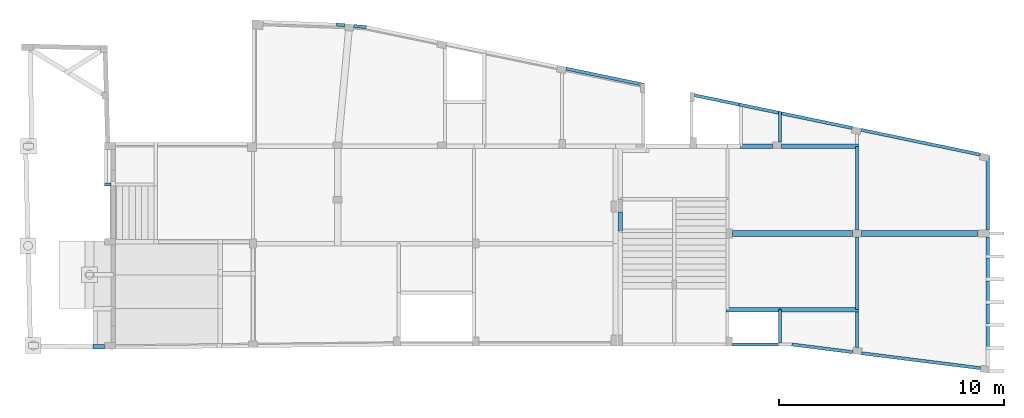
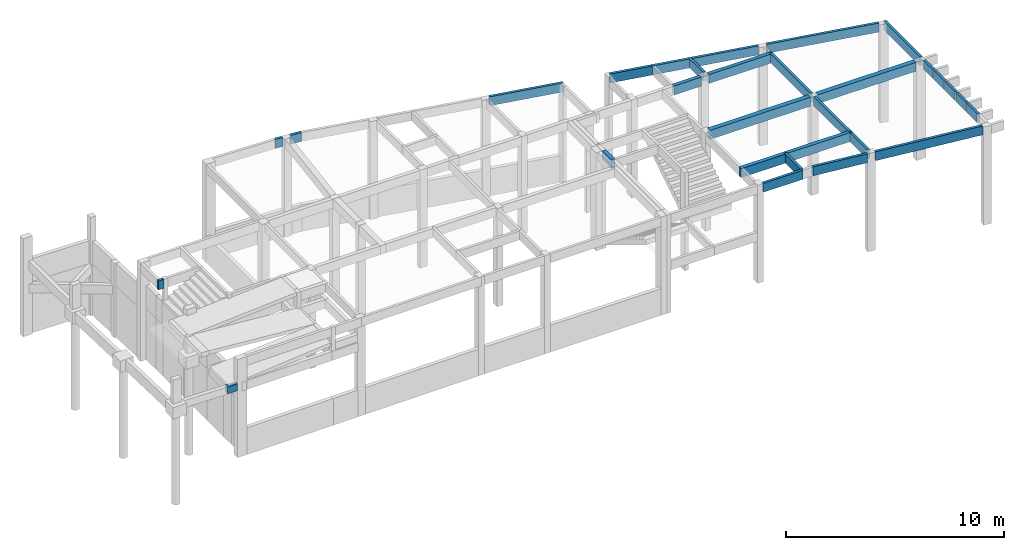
# One storey, part 3 of 8: 30 beams.
"""IFC4 building model written with IfcOpenShell, lengths in centimetres."""

from ifc_helpers import new_model, si_unit, derived_unit, frame, origin, origin_with_axes, origin_2d_with_axis, place, context, project, spatial, rectangle, extrude, clip, halfspace, material, element, save


model = new_model("IFC4")

# Units and contexts
model_context = context("Model", 3, precision=1e-05, world=origin_with_axes(), identifier="Body")
ifc_project = project(units=[si_unit("LENGTHUNIT", "METRE", prefix="CENTI"), si_unit("VOLUMEUNIT", "CUBIC_METRE"), si_unit("AREAUNIT", "SQUARE_METRE"), si_unit("POWERUNIT", "WATT"), si_unit("LUMINOUSFLUXUNIT", "LUMEN"), si_unit("ELECTRICCURRENTUNIT", "AMPERE"), si_unit("PRESSUREUNIT", "PASCAL", prefix="KILO"), si_unit("MASSUNIT", "GRAM", prefix="KILO"), si_unit("PLANEANGLEUNIT", "RADIAN"), derived_unit("VOLUMETRICFLOWRATEUNIT", [(si_unit("LENGTHUNIT", "METRE"), 3), (si_unit("TIMEUNIT", "SECOND"), -1)])], contexts=[model_context])

# Site, building, storey
site_placement = place(None, origin_with_axes())
site = spatial("IfcSite", under=ifc_project, at=site_placement)
building_placement = place(site_placement, origin())
building = spatial("IfcBuilding", under=site, at=building_placement)
placement = place(building_placement, origin_with_axes())
storey_placement = place(placement, frame((0.0, 0.0, 550.0), z_axis=(0.0, 0.0, 1.0), x_axis=(1.0, 0.0, 0.0)))
storey = spatial("IfcBuildingStorey", under=building, at=storey_placement, Name="TÉRREO", CompositionType="ELEMENT", Elevation=550.0)

# Beams
ifc_material = material(Name="Concreto")
beam_1_placement = place(storey_placement, frame((342.175, -1348.2, -135.0), z_axis=(0.0, 0.0, 1.0), x_axis=(1.0, 0.0, 0.0)))
element("IfcBeam", 1, at=beam_1_placement, inside=storey, material=ifc_material, Name="V.RAMPA11", context=model_context, shape_type="SolidModel", body=[
    extrude(rectangle(XDim=20.0, YDim=40.0, at=origin_2d_with_axis()), frame((-25.575, 0.0, -20.0), z_axis=(1.0, 0.0, 0.0), x_axis=(0.0, -1.0, 0.0)), (0.0, 0.0, 1.0), 51.15),
])
beam_2_placement = place(storey_placement, frame((3996.1, -843.1, 0.0), z_axis=(0.0, 0.0, 1.0), x_axis=(1.0, 0.0, 0.0)))
element("IfcBeam", 2, at=beam_2_placement, inside=storey, material=ifc_material, Name="V11", context=model_context, shape_type="SolidModel", body=[
    extrude(rectangle(XDim=25.0, YDim=50.0, at=origin_2d_with_axis()), frame((-259.5, 0.0, -25.0), z_axis=(1.0, 0.0, 0.0), x_axis=(0.0, 1.0, 0.0)), (0.0, 0.0, 1.0), 519.0),
])
beam_3_placement = place(storey_placement, frame((3430.1, -843.1, 0.0), z_axis=(0.0, 0.0, 1.0), x_axis=(1.0, 0.0, 0.0)))
element("IfcBeam", 3, at=beam_3_placement, inside=storey, material=ifc_material, Name="V11", context=model_context, shape_type="SolidModel", body=[
    extrude(rectangle(XDim=25.0, YDim=50.0, at=origin_2d_with_axis()), frame((-266.5, 0.0, -25.0), z_axis=(1.0, 0.0, 0.0), x_axis=(0.0, 1.0, 0.0)), (0.0, 0.0, 1.0), 533.0),
])
beam_4_placement = place(storey_placement, frame((3549.1158907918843, -1181.9, 0.0), z_axis=(0.0, 0.0, 1.0), x_axis=(1.0, 0.0, 0.0)))
element("IfcBeam", 4, at=beam_4_placement, inside=storey, material=ifc_material, Name="V15", context=model_context, shape_type="SolidModel", body=[
    extrude(rectangle(XDim=20.0, YDim=50.0, at=origin_2d_with_axis()), frame((-174.51589079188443, 0.0, -25.0), z_axis=(1.0, 0.0, 0.0), x_axis=(0.0, 1.0, 0.0)), (0.0, 0.0, 1.0), 349.0317815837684),
])
beam_5_placement = place(storey_placement, frame((3254.1, -1181.9, 0.0), z_axis=(0.0, 0.0, 1.0), x_axis=(1.0, 0.0, 0.0)))
element("IfcBeam", 5, at=beam_5_placement, inside=storey, material=ifc_material, Name="V15", context=model_context, shape_type="SolidModel", body=[
    extrude(rectangle(XDim=20.0, YDim=50.0, at=origin_2d_with_axis()), frame((-120.5, 0.0, -25.0), z_axis=(1.0, 0.0, 0.0), x_axis=(0.0, 1.0, 0.0)), (0.0, 0.0, 1.0), 241.0),
])
beam_6_placement = place(storey_placement, frame((2663.6, -789.6, 0.0), z_axis=(0.0, 0.0, 1.0), x_axis=(1.0, 0.0, 0.0)))
element("IfcBeam", 6, at=beam_6_placement, inside=storey, material=ifc_material, Name="V30", context=model_context, shape_type="SolidModel", body=[
    extrude(rectangle(XDim=20.0, YDim=50.0, at=origin_2d_with_axis()), frame((0.0, -41.5, -25.0), z_axis=(0.0, 1.0, 0.0), x_axis=(1.0, 0.0, 0.0)), (0.0, 0.0, 1.0), 83.0),
])
beam_7_placement = place(storey_placement, frame((3374.6, -1255.980675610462, 0.0), z_axis=(0.0, 0.0, 1.0), x_axis=(1.0, 0.0, 0.0)))
element("IfcBeam", 7, at=beam_7_placement, inside=storey, material=ifc_material, Name="V38", context=model_context, shape_type="SolidModel", body=[
    extrude(rectangle(XDim=14.0, YDim=50.0, at=origin_2d_with_axis()), frame((0.0, -74.08067561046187, -25.0), z_axis=(0.0, 1.0, 0.0), x_axis=(1.0, 0.0, 0.0)), (0.0, 0.0, 1.0), 148.16135122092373),
])
beam_8_placement = place(storey_placement, frame((3374.6, -367.4038838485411, 0.0), z_axis=(0.0, 0.0, 1.0), x_axis=(1.0, 0.0, 0.0)))
element("IfcBeam", 8, at=beam_8_placement, inside=storey, material=ifc_material, Name="V39", context=model_context, shape_type="Clipping", body=[
    clip(extrude(rectangle(XDim=14.0, YDim=50.0, at=origin_2d_with_axis()), frame((0.0, -68.49611615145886, -25.0), z_axis=(0.0, 1.0, 0.0), x_axis=(1.0, 0.0, 0.0)), (0.0, 0.0, 1.0), 136.99223230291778), halfspace(frame((-7.0, 68.49611615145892, -50.0), z_axis=(-0.203241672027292, -0.979128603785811, 0.0), x_axis=(0.0, 0.0, -0.203241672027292)), True)),
])
beam_9_placement = place(storey_placement, frame((3716.6140305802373, -1271.541676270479, 0.0), z_axis=(0.0, 0.0, 1.0), x_axis=(1.0, 0.0, 0.0)))
element("IfcBeam", 9, at=beam_9_placement, inside=storey, material=ifc_material, Name="V40", context=model_context, shape_type="SolidModel", body=[
    extrude(rectangle(XDim=14.0, YDim=50.0, at=origin_2d_with_axis()), frame((-0.014188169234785, -79.64292330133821, -25.0), z_axis=(0.00017814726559, 1.0, 0.0), x_axis=(1.0, -0.00017814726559, 0.0)), (0.0, 0.0, 1.0), 159.28584913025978),
])
beam_10_placement = place(storey_placement, frame((3716.615, -1020.0, 0.0), z_axis=(0.0, 0.0, 1.0), x_axis=(1.0, 0.0, 0.0)))
element("IfcBeam", 10, at=beam_10_placement, inside=storey, material=ifc_material, Name="V40", context=model_context, shape_type="SolidModel", body=[
    extrude(rectangle(XDim=14.0, YDim=50.0, at=origin_2d_with_axis()), frame((0.015, -161.9, -25.0), z_axis=(-9.264978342e-05, 1.0, 0.0), x_axis=(1.0, 9.264978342e-05, 0.0)), (0.0, 0.0, 1.0), 323.8000013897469),
])
beam_11_placement = place(storey_placement, frame((3716.6, -642.0, 0.0), z_axis=(0.0, 0.0, 1.0), x_axis=(1.0, 0.0, 0.0)))
element("IfcBeam", 11, at=beam_11_placement, inside=storey, material=ifc_material, Name="V40", context=model_context, shape_type="SolidModel", body=[
    extrude(rectangle(XDim=14.0, YDim=50.0, at=origin_2d_with_axis()), frame((0.0, -186.1, -25.0), z_axis=(0.0, 1.0, 0.0), x_axis=(1.0, 0.0, 0.0)), (0.0, 0.0, 1.0), 372.2),
])
beam_12_placement = place(storey_placement, frame((4298.6, -660.85, 0.0), z_axis=(0.0, 0.0, 1.0), x_axis=(1.0, 0.0, 0.0)))
element("IfcBeam", 12, at=beam_12_placement, inside=storey, material=ifc_material, Name="V41", context=model_context, shape_type="SolidModel", body=[
    extrude(rectangle(XDim=14.0, YDim=50.0, at=origin_2d_with_axis()), frame((0.0, -167.25, -25.0), z_axis=(0.0, 1.0, 0.0), x_axis=(1.0, 0.0, 0.0)), (0.0, 0.0, 1.0), 334.5),
])
beam_13_placement = place(storey_placement, frame((4298.6, -1200.15, 0.0), z_axis=(0.0, 0.0, 1.0), x_axis=(1.0, 0.0, 0.0)))
element("IfcBeam", 13, at=beam_13_placement, inside=storey, material=ifc_material, Name="V41", context=model_context, shape_type="SolidModel", body=[
    extrude(rectangle(XDim=14.0, YDim=50.0, at=origin_2d_with_axis()), frame((0.0, -44.0, -25.0), z_axis=(0.0, 1.0, 0.0), x_axis=(1.0, 0.0, 0.0)), (0.0, 0.0, 1.0), 88.0),
])
beam_14_placement = place(storey_placement, frame((4298.6, -1101.65, 0.0), z_axis=(0.0, 0.0, 1.0), x_axis=(1.0, 0.0, 0.0)))
element("IfcBeam", 14, at=beam_14_placement, inside=storey, material=ifc_material, Name="V41", context=model_context, shape_type="SolidModel", body=[
    extrude(rectangle(XDim=14.0, YDim=50.0, at=origin_2d_with_axis()), frame((0.0, -47.5, -25.0), z_axis=(0.0, 1.0, 0.0), x_axis=(1.0, 0.0, 0.0)), (0.0, 0.0, 1.0), 95.0),
])
beam_15_placement = place(storey_placement, frame((4298.6, -1302.175, 0.0), z_axis=(0.0, 0.0, 1.0), x_axis=(1.0, 0.0, 0.0)))
element("IfcBeam", 15, at=beam_15_placement, inside=storey, material=ifc_material, Name="V41", context=model_context, shape_type="SolidModel", body=[
    extrude(rectangle(XDim=14.0, YDim=50.0, at=origin_2d_with_axis()), frame((0.0, -51.025, -25.0), z_axis=(0.0, 1.0, 0.0), x_axis=(1.0, 0.0, 0.0)), (0.0, 0.0, 1.0), 102.05),
])
beam_16_placement = place(storey_placement, frame((4298.6, -901.6, 0.0), z_axis=(0.0, 0.0, 1.0), x_axis=(1.0, 0.0, 0.0)))
element("IfcBeam", 16, at=beam_16_placement, inside=storey, material=ifc_material, Name="V41", context=model_context, shape_type="SolidModel", body=[
    extrude(rectangle(XDim=14.0, YDim=50.0, at=origin_2d_with_axis()), frame((0.0, -43.5, -25.0), z_axis=(0.0, 1.0, 0.0), x_axis=(1.0, 0.0, 0.0)), (0.0, 0.0, 1.0), 87.0),
])
beam_17_placement = place(storey_placement, frame((4298.6, -999.625, 0.0), z_axis=(0.0, 0.0, 1.0), x_axis=(1.0, 0.0, 0.0)))
element("IfcBeam", 17, at=beam_17_placement, inside=storey, material=ifc_material, Name="V41", context=model_context, shape_type="SolidModel", body=[
    extrude(rectangle(XDim=14.0, YDim=50.0, at=origin_2d_with_axis()), frame((0.0, -47.525, -25.0), z_axis=(0.0, 1.0, 0.0), x_axis=(1.0, 0.0, 0.0)), (0.0, 0.0, 1.0), 95.05),
])
beam_18_placement = place(storey_placement, frame((2597.2596215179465, -146.16697038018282, 0.0), z_axis=(0.0, 0.0, 1.0), x_axis=(1.0, 0.0, 0.0)))
element("IfcBeam", 18, at=beam_18_placement, inside=storey, material=ifc_material, Name="V42", context=model_context, shape_type="SolidModel", body=[
    extrude(rectangle(XDim=14.0, YDim=50.0, at=origin_2d_with_axis()), frame((-174.30962151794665, 36.176970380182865, -25.0), z_axis=(0.979134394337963, -0.20321377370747, 0.0), x_axis=(0.20321377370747, 0.979134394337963, 0.0)), (0.0, 0.0, 1.0), 356.0484087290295),
])
beam_19_placement = place(storey_placement, frame((1419.3262918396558, 84.60237679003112, 0.0), z_axis=(0.0, 0.0, 1.0), x_axis=(1.0, 0.0, 0.0)))
element("IfcBeam", 19, at=beam_19_placement, inside=storey, material=ifc_material, Name="V42", context=model_context, shape_type="Clipping", body=[
    clip(extrude(rectangle(XDim=14.0, YDim=50.0, at=origin_2d_with_axis()), frame((-18.448875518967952, 1.562376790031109, -25.0), z_axis=(0.996365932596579, -0.085175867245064, 0.0), x_axis=(0.085175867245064, 0.996365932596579, 0.0)), (0.0, 0.0, 1.0), 36.685902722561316), halfspace(frame((-17.852644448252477, 8.536938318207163, 0.0), z_axis=(0.998168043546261, -0.060502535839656, 0.0), x_axis=(0.0, 0.0, -0.024737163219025)), True)),
])
beam_20_placement = place(storey_placement, frame((1505.3493357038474, 77.27788294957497, 0.0), z_axis=(0.0, 0.0, 1.0), x_axis=(1.0, 0.0, 0.0)))
element("IfcBeam", 20, at=beam_20_placement, inside=storey, material=ifc_material, Name="V42", context=model_context, shape_type="Clipping", body=[
    clip(extrude(rectangle(XDim=14.0, YDim=50.0, at=origin_2d_with_axis()), frame((-28.0693357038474, 2.362117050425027, -25.0), z_axis=(0.99637095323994, -0.085117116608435, 0.0), x_axis=(0.085117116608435, 0.99637095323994, 0.0)), (0.0, 0.0, 1.0), 56.343143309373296), halfspace(frame((28.66515552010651, 4.540947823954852, -50.0), z_axis=(-0.989480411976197, 0.144666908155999, 0.0), x_axis=(0.0, 0.0, -0.059920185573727)), True)),
])
beam_21_placement = place(storey_placement, frame((3535.095, -340.825, 0.0), z_axis=(0.0, 0.0, 1.0), x_axis=(1.0, 0.0, 0.0)))
element("IfcBeam", 21, at=beam_21_placement, inside=storey, material=ifc_material, Name="V43", context=model_context, shape_type="SolidModel", body=[
    extrude(rectangle(XDim=14.0, YDim=50.0, at=origin_2d_with_axis()), frame((-160.495, 33.315, -25.0), z_axis=(0.979128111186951, -0.203244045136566, 0.0), x_axis=(0.203244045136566, 0.979128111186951, 0.0)), (0.0, 0.0, 1.0), 327.8324831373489),
])
beam_22_placement = place(storey_placement, frame((3279.8, -287.8319817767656, 0.0), z_axis=(0.0, 0.0, 1.0), x_axis=(1.0, 0.0, 0.0)))
element("IfcBeam", 22, at=beam_22_placement, inside=storey, material=ifc_material, Name="V43", context=model_context, shape_type="Clipping", body=[
    clip(clip(extrude(rectangle(XDim=14.0, YDim=50.0, at=origin_2d_with_axis()), frame((-89.22269170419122, 18.520313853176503, -25.0), z_axis=(0.97912860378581, -0.203241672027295, 0.0), x_axis=(0.203241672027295, 0.97912860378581, 0.0)), (0.0, 0.0, 1.0), 182.2491782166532), halfspace(frame((-87.8, 25.37421407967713, 0.0), z_axis=(1.0, 0.0, 0.0), x_axis=(0.0, 0.0, -0.203241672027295)), True)), halfspace(frame((87.8, -11.075785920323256, -50.0), z_axis=(-1.0, 0.0, 0.0), x_axis=(0.0, 0.0, 0.203241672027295)), True)),
])
beam_23_placement = place(storey_placement, frame((3999.881337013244, -437.29631520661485, 0.0), z_axis=(0.0, 0.0, 1.0), x_axis=(1.0, 0.0, 0.0)))
element("IfcBeam", 23, at=beam_23_placement, inside=storey, material=ifc_material, Name="V43", context=model_context, shape_type="SolidModel", body=[
    extrude(rectangle(XDim=14.0, YDim=50.0, at=origin_2d_with_axis()), frame((-265.13133701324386, 55.02631520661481, -25.0), z_axis=(0.979134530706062, -0.203213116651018, 0.0), x_axis=(0.203213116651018, 0.979134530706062, 0.0)), (0.0, 0.0, 1.0), 541.5626325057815),
])
beam_24_placement = place(storey_placement, frame((3095.2888176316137, -249.53741239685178, 0.0), z_axis=(0.0, 0.0, 1.0), x_axis=(1.0, 0.0, 0.0)))
element("IfcBeam", 24, at=beam_24_placement, inside=storey, material=ifc_material, Name="V43", context=model_context, shape_type="SolidModel", body=[
    extrude(rectangle(XDim=14.0, YDim=50.0, at=origin_2d_with_axis()), frame((-103.71118236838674, 21.522587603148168, -25.0), z_axis=(0.979138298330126, -0.203194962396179, 0.0), x_axis=(0.203194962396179, 0.979138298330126, 0.0)), (0.0, 0.0, 1.0), 211.84174400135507),
])
beam_25_placement = place(storey_placement, frame((3269.1, -1337.065, 0.0), z_axis=(0.0, 0.0, 1.0), x_axis=(1.0, 0.0, 0.0)))
element("IfcBeam", 25, at=beam_25_placement, inside=storey, material=ifc_material, Name="V45", context=model_context, shape_type="SolidModel", body=[
    extrude(rectangle(XDim=14.0, YDim=50.0, at=origin_2d_with_axis()), frame((105.5, 0.005, -25.0), z_axis=(-1.0, -4.7393364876e-05, 0.0), x_axis=(-4.7393364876e-05, 1.0, 0.0)), (0.0, 0.0, 1.0), 211.0),
])
beam_26_placement = place(storey_placement, frame((3562.232653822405, -1354.0626518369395, 0.0), z_axis=(0.0, 0.0, 1.0), x_axis=(1.0, 0.0, 0.0)))
element("IfcBeam", 26, at=beam_26_placement, inside=storey, material=ifc_material, Name="V45", context=model_context, shape_type="Clipping", body=[
    clip(extrude(rectangle(XDim=14.0, YDim=50.0, at=origin_2d_with_axis()), frame((135.39734617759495, -17.067348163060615, -25.0), z_axis=(-0.992198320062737, 0.124669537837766, 0.0), x_axis=(0.124669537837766, 0.992198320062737, 0.0)), (0.0, 0.0, 1.0), 273.80141867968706), halfspace(frame((-136.2700329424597, 10.012567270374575, -50.0), z_axis=(0.998053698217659, -0.062360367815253, 0.0), x_axis=(0.0, 0.0, 0.06255304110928)), True)),
])
beam_27_placement = place(storey_placement, frame((4001.805, -1409.39, 0.0), z_axis=(0.0, 0.0, 1.0), x_axis=(1.0, 0.0, 0.0)))
element("IfcBeam", 27, at=beam_27_placement, inside=storey, material=ifc_material, Name="V45", context=model_context, shape_type="SolidModel", body=[
    extrude(rectangle(XDim=14.0, YDim=50.0, at=origin_2d_with_axis()), frame((264.485, -33.27, -25.0), z_axis=(-0.992180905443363, 0.124808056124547, 0.0), x_axis=(0.124808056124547, 0.992180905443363, 0.0)), (0.0, 0.0, 1.0), 533.1386616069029),
])
beam_28_placement = place(storey_placement, frame((3552.6, -455.9, 0.0), z_axis=(0.0, 0.0, 1.0), x_axis=(1.0, 0.0, 0.0)))
element("IfcBeam", 28, at=beam_28_placement, inside=storey, material=ifc_material, Name="V5", context=model_context, shape_type="SolidModel", body=[
    extrude(rectangle(XDim=20.0, YDim=50.0, at=origin_2d_with_axis()), frame((-171.0, 0.0, -25.0), z_axis=(1.0, 0.0, 0.0), x_axis=(0.0, 1.0, 0.0)), (0.0, 0.0, 1.0), 342.0),
])
beam_29_placement = place(storey_placement, frame((3270.3, -455.9, 0.0), z_axis=(0.0, 0.0, 1.0), x_axis=(1.0, 0.0, 0.0)))
element("IfcBeam", 29, at=beam_29_placement, inside=storey, material=ifc_material, Name="V5", context=model_context, shape_type="SolidModel", body=[
    extrude(rectangle(XDim=20.0, YDim=50.0, at=origin_2d_with_axis()), frame((-71.3, 0.0, -25.0), z_axis=(1.0, 0.0, 0.0), x_axis=(0.0, 1.0, 0.0)), (0.0, 0.0, 1.0), 142.6),
])
beam_30_placement = place(storey_placement, frame((382.75, -625.85, 0.0), z_axis=(0.0, 0.0, 1.0), x_axis=(1.0, 0.0, 0.0)))
element("IfcBeam", 30, at=beam_30_placement, inside=storey, material=ifc_material, Name="V6", context=model_context, shape_type="SolidModel", body=[
    extrude(rectangle(XDim=14.0, YDim=50.0, at=origin_2d_with_axis()), frame((-15.0, 0.0, -25.0), z_axis=(1.0, 0.0, 0.0), x_axis=(0.0, -1.0, 0.0)), (0.0, 0.0, 1.0), 30.0),
])

save(model, "model.ifc")
